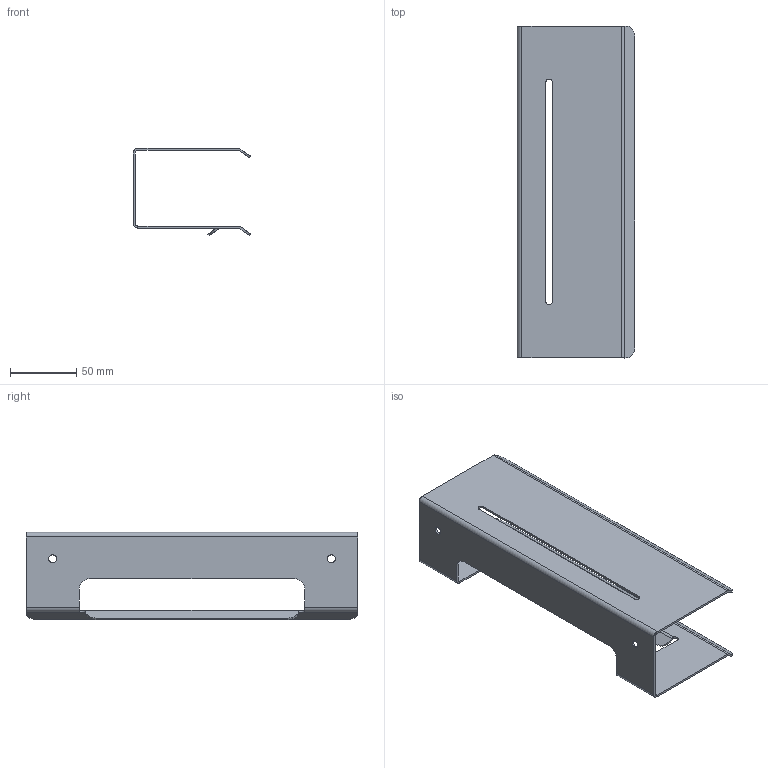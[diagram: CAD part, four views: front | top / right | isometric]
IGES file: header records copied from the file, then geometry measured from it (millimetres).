
Start section: IGES file generated by C3D Converter 1.5 translator by C3D Labs., translator version IGESOUT-5.1.
Global section: file name: D:\×åðòåæè èçäåëèé Âàííà 2023\Ïîëêè Simple Íîâûå\3D\×åðòåæè 22.07.2023\3D\S²MPLE_2LAYER_250.igs; preprocessor: 1.0; author: a.kalenyk83@gmail.com; organization: unknown; date: -17770622:111614; units: millimetre
Bounding box: 88.5 x 250 x 65.77 mm (x, y, z)
Volume: 66585.1 mm3; surface area: 91584 mm2
Topology: 1 solids, 1 shells, 76 faces, 180 edges, 104 vertices
Faces by surface type: bspline 48, revolution 28
